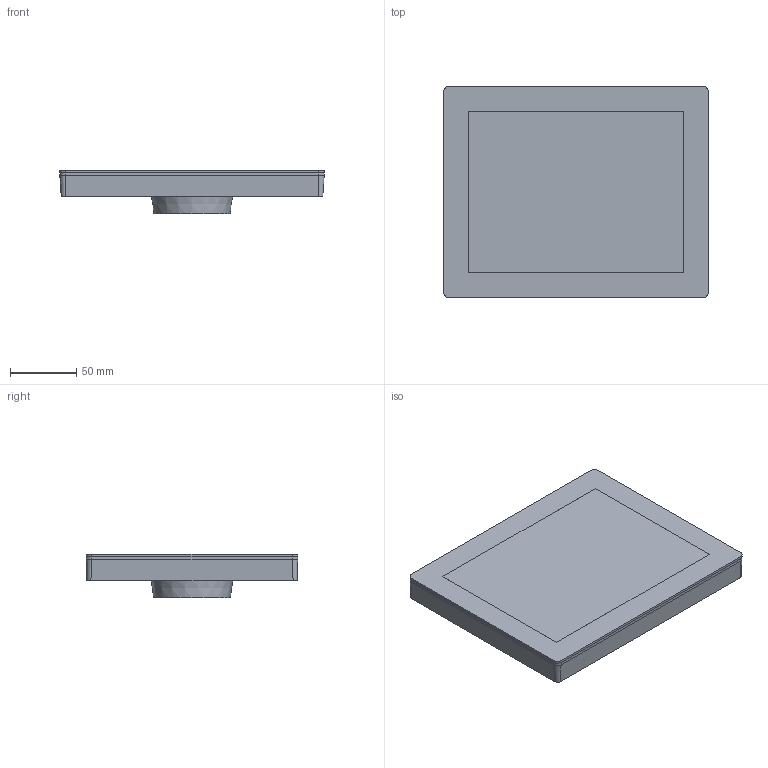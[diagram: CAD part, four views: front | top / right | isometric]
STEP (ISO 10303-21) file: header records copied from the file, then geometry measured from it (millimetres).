
FILE_DESCRIPTION(/* description */ ('STEP AP242','CAx-IF Rec.Pracs.---Representation and Presentation of Product Manufacturing Information (PMI)---4.0---2014-10-13','CAx-IF Rec.Pracs.---3D Tessellated Geometry---0.4---2014-09-14','2;1'),/* implementation_level */ '2;1');
FILE_NAME(/* name */ '6634d46c5996e81fac3b1ea1',/* time_stamp */ '2024-05-03T12:11:26Z',/* author */ (''),/* organization */ (''),/* preprocessor_version */ 'ST-DEVELOPER v20',/* originating_system */ ' ',/* authorisation */ ' ');
FILE_SCHEMA (('AP242_MANAGED_MODEL_BASED_3D_ENGINEERING_MIM_LF { 1 0 10303 442 1 1 4 }'));
Length unit declared in the file: metre
Products named in the file (1): Touch 8 W
Bounding box: 200 x 160 x 32.95 mm (x, y, z)
Volume: 632597 mm3; surface area: 87925.9 mm2
Topology: 1 solids, 1 shells, 1213 faces, 3048 edges, 2000 vertices
Faces by surface type: plane 863, cylinder 191, torus 118, cone 29, bspline 12
Full cylindrical faces by diameter (mm): 0.407 x7, 0.527 x7, 0.647 x7, 0.74 x7, 1.11 x1, 1.75 x1, 7.4 x1, 56 x1
Entity records: 36807 total; most frequent: CARTESIAN_POINT 6747, DIRECTION 6109, ORIENTED_EDGE 6010, EDGE_CURVE 3005, LINE 2257, VECTOR 2257, VERTEX_POINT 2000, AXIS2_PLACEMENT_3D 1926
